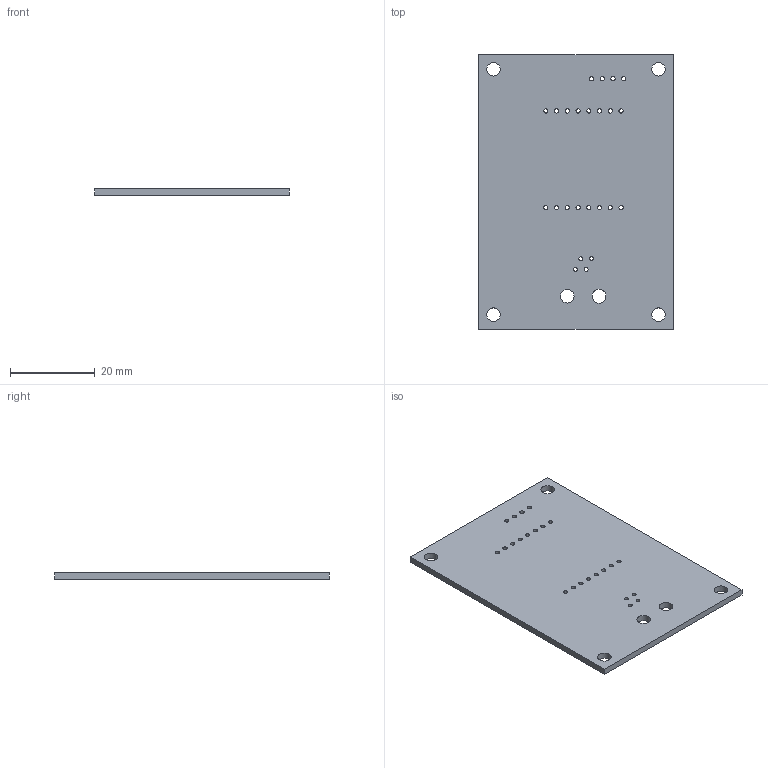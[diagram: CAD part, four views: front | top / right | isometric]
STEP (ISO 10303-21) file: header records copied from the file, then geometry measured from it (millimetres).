
FILE_DESCRIPTION(('KiCad electronic assembly'),'2;1');
FILE_NAME('WaterPressureSensor-carrier-only.step','2026-10-17T18:49:54', ('Pcbnew'),('Kicad'),'Open CASCADE STEP processor 7.9', 'KiCad to STEP converter','Unknown');
FILE_SCHEMA(('AUTOMOTIVE_DESIGN { 1 0 10303 214 1 1 1 1 }'));
Length unit declared in the file: millimetre
Products named in the file (2): WaterPressureSensor-carrier-only 1; WaterPressureSensor_PCB
Assembly tree (1 placements, depth 2):
  WaterPressureSensor-carrier-only 1
    WaterPressureSensor_PCB
Bounding box: 46 x 65 x 1.51 mm (x, y, z)
Volume: 4414.1 mm3; surface area: 6385 mm2
Topology: 1 solids, 1 shells, 36 faces, 102 edges, 68 vertices
Faces by surface type: cylinder 30, plane 6
Full cylindrical faces by diameter (mm): 0.9 x4, 1 x20, 3.2 x5, 3.25 x1
Entity records: 1363 total; most frequent: DIRECTION 238, CARTESIAN_POINT 208, ORIENTED_EDGE 204, EDGE_CURVE 102, AXIS2_PLACEMENT_3D 98, FACE_BOUND 96, EDGE_LOOP 96, VERTEX_POINT 68
